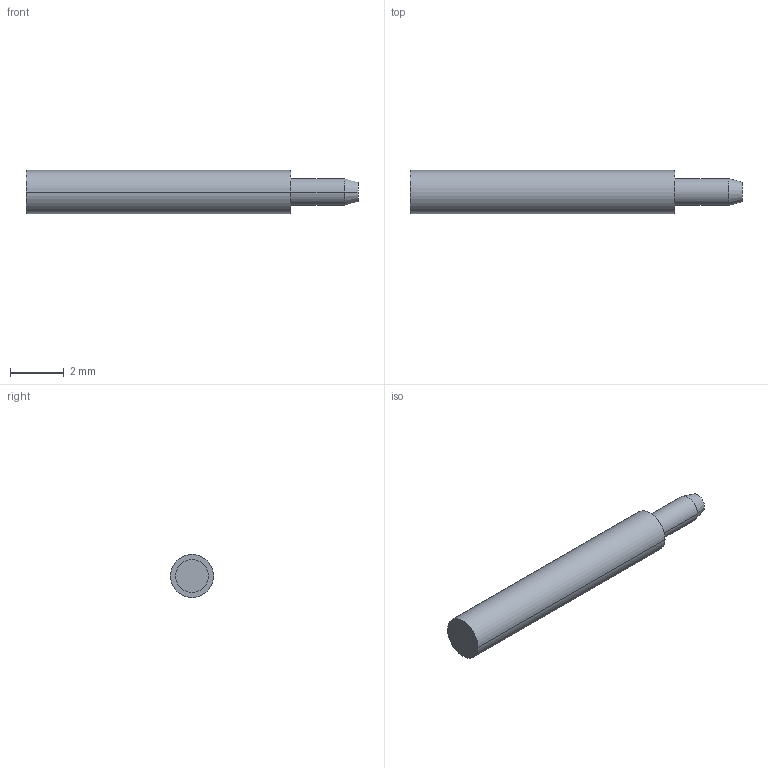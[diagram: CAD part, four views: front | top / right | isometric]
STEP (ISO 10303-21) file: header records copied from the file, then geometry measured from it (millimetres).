
FILE_DESCRIPTION(/* description */ ('(C) Elphel, Inc. 2013. Licensed under CERN OHL v.1.1 or later, see http://ohwr.org/cernohl'),/* implementation_level */ '2;1');
FILE_NAME(/* name */ '0353-40-16.stp',/* time_stamp */ '2013-02-25T17:52:49-07:00',/* author */ (''),/* organization */ ('Elphel, Inc'),/* preprocessor_version */ 'ST-DEVELOPER v14',/* originating_system */ 'VariCAD 2013-1.03; kernel version (20121105)',/* authorisation */ '');
FILE_SCHEMA (('CONFIG_CONTROL_DESIGN'));
Length unit declared in the file: millimetre
Products named in the file (2): 0353-40-16
Assembly tree (1 placements, depth 2):
  0353-40-16
    0353-40-16
Bounding box: 12.3 x 1.6 x 1.6 mm (x, y, z)
Volume: 21.6 mm3; surface area: 60.6 mm2
Topology: 1 solids, 1 shells, 11 faces, 20 edges, 14 vertices
Faces by surface type: plane 5, cylinder 4, cone 2
Entity records: 384 total; most frequent: DIRECTION 64, CARTESIAN_POINT 49, ORIENTED_EDGE 40, AXIS2_PLACEMENT_3D 29, EDGE_CURVE 20, EDGE_LOOP 14, CIRCLE 14, VERTEX_POINT 14
